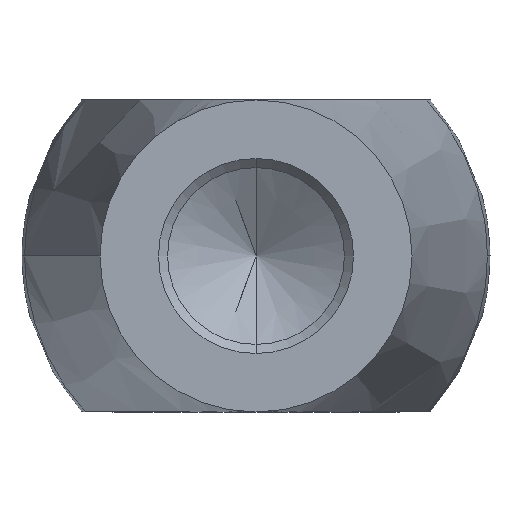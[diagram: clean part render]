
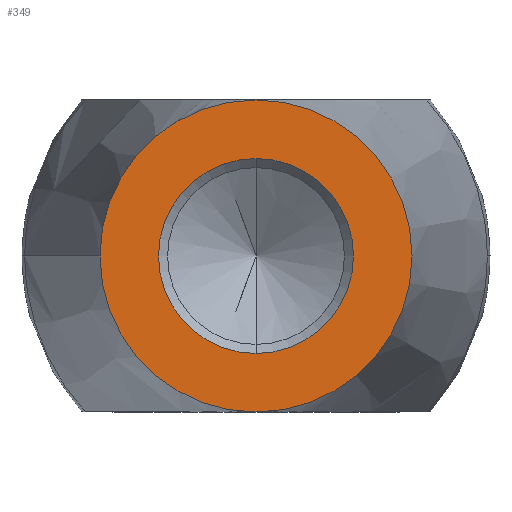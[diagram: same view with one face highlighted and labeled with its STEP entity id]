
A CAD part, front view. The second image highlights one B-rep face of the part: STEP entity #349.
In plain terms, the highlighted planar face has unit normal (0, -1, 0).
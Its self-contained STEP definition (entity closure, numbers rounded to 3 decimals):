
#13 = CIRCLE ( 'NONE', #279, 6. ) ;
#31 = DIRECTION ( 'NONE',  ( 0., -1., 0. ) ) ;
#35 = ORIENTED_EDGE ( 'NONE', *, *, #376, .F. ) ;
#36 = EDGE_CURVE ( 'NONE', #324, #277, #78, .T. ) ;
#48 = AXIS2_PLACEMENT_3D ( 'NONE', #245, #664, #364 ) ;
#73 = AXIS2_PLACEMENT_3D ( 'NONE', #706, #348, #243 ) ;
#78 = CIRCLE ( 'NONE', #602, 6. ) ;
#101 = DIRECTION ( 'NONE',  ( 0., 1., 0. ) ) ;
#103 = EDGE_LOOP ( 'NONE', ( #294, #681 ) ) ;
#132 = CARTESIAN_POINT ( 'NONE',  ( 0., 0., 6. ) ) ;
#151 = CIRCLE ( 'NONE', #73, 3.75 ) ;
#168 = DIRECTION ( 'NONE',  ( -1., 0., 0. ) ) ;
#201 = ORIENTED_EDGE ( 'NONE', *, *, #36, .F. ) ;
#207 = FACE_BOUND ( 'NONE', #103, .T. ) ;
#223 = DIRECTION ( 'NONE',  ( 0., 0., -1. ) ) ;
#235 = EDGE_CURVE ( 'NONE', #276, #324, #313, .T. ) ;
#243 = DIRECTION ( 'NONE',  ( 0., 0., -1. ) ) ;
#245 = CARTESIAN_POINT ( 'NONE',  ( 0., 0., 0. ) ) ;
#264 = CARTESIAN_POINT ( 'NONE',  ( 0., 0., -6. ) ) ;
#276 = VERTEX_POINT ( 'NONE', #264 ) ;
#277 = VERTEX_POINT ( 'NONE', #132 ) ;
#279 = AXIS2_PLACEMENT_3D ( 'NONE', #563, #632, #381 ) ;
#294 = ORIENTED_EDGE ( 'NONE', *, *, #685, .F. ) ;
#313 = CIRCLE ( 'NONE', #48, 6. ) ;
#317 = CARTESIAN_POINT ( 'NONE',  ( -6., 0., 0. ) ) ;
#324 = VERTEX_POINT ( 'NONE', #317 ) ;
#329 = DIRECTION ( 'NONE',  ( 0., 1., 0. ) ) ;
#336 = PLANE ( 'NONE',  #654 ) ;
#348 = DIRECTION ( 'NONE',  ( 0., -1., 0. ) ) ;
#349 = ADVANCED_FACE ( 'NONE', ( #207, #352 ), #336, .F. ) ;
#352 = FACE_OUTER_BOUND ( 'NONE', #716, .T. ) ;
#364 = DIRECTION ( 'NONE',  ( -1., 0., 0. ) ) ;
#376 = EDGE_CURVE ( 'NONE', #277, #276, #13, .T. ) ;
#381 = DIRECTION ( 'NONE',  ( -1., 0., 0. ) ) ;
#409 = CARTESIAN_POINT ( 'NONE',  ( 0., 0., 0. ) ) ;
#458 = EDGE_CURVE ( 'NONE', #725, #603, #151, .T. ) ;
#462 = ORIENTED_EDGE ( 'NONE', *, *, #235, .F. ) ;
#466 = CARTESIAN_POINT ( 'NONE',  ( 0., 0., 3.75 ) ) ;
#544 = CIRCLE ( 'NONE', #692, 3.75 ) ;
#558 = CARTESIAN_POINT ( 'NONE',  ( -4., 0., 0. ) ) ;
#563 = CARTESIAN_POINT ( 'NONE',  ( 0., 0., 0. ) ) ;
#564 = DIRECTION ( 'NONE',  ( -1., 0., 0. ) ) ;
#602 = AXIS2_PLACEMENT_3D ( 'NONE', #409, #101, #168 ) ;
#603 = VERTEX_POINT ( 'NONE', #675 ) ;
#632 = DIRECTION ( 'NONE',  ( 0., 1., 0. ) ) ;
#647 = CARTESIAN_POINT ( 'NONE',  ( 0., 0., 0. ) ) ;
#654 = AXIS2_PLACEMENT_3D ( 'NONE', #558, #329, #564 ) ;
#664 = DIRECTION ( 'NONE',  ( 0., 1., 0. ) ) ;
#675 = CARTESIAN_POINT ( 'NONE',  ( 0., 0., -3.75 ) ) ;
#681 = ORIENTED_EDGE ( 'NONE', *, *, #458, .F. ) ;
#685 = EDGE_CURVE ( 'NONE', #603, #725, #544, .T. ) ;
#692 = AXIS2_PLACEMENT_3D ( 'NONE', #647, #31, #223 ) ;
#706 = CARTESIAN_POINT ( 'NONE',  ( 0., 0., 0. ) ) ;
#716 = EDGE_LOOP ( 'NONE', ( #462, #35, #201 ) ) ;
#725 = VERTEX_POINT ( 'NONE', #466 ) ;
